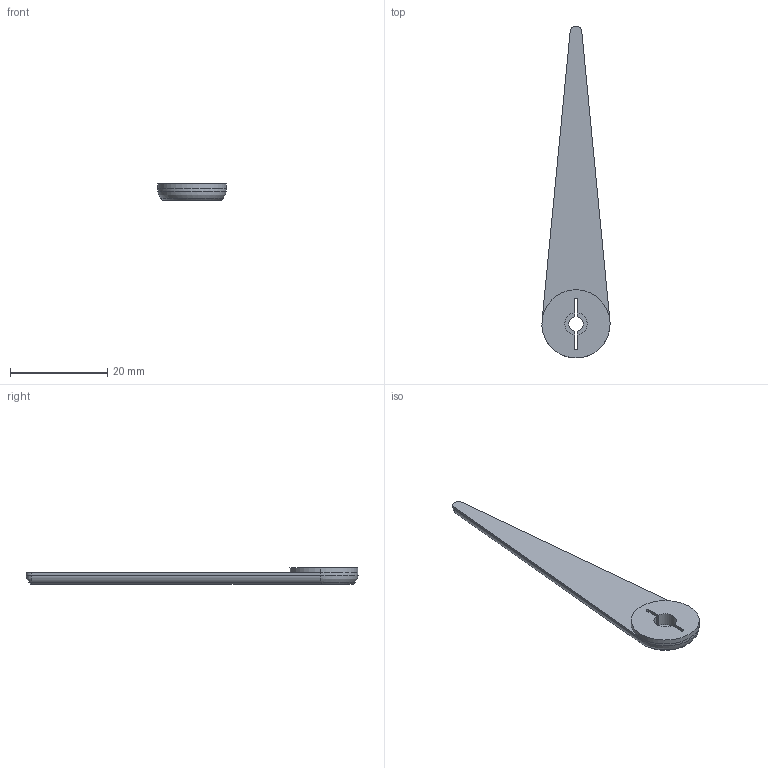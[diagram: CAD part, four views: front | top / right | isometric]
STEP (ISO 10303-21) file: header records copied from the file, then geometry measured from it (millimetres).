
FILE_DESCRIPTION(('FreeCAD Model'),'2;1');
FILE_NAME('Open CASCADE Shape Model','2024-03-23T00:14:42',(''),(''), 'Open CASCADE STEP processor 7.6','FreeCAD','Unknown');
FILE_SCHEMA(('AUTOMOTIVE_DESIGN { 1 0 10303 214 1 1 1 1 }'));
Length unit declared in the file: millimetre
Products named in the file (1): Pointer
Bounding box: 13.98 x 68.2 x 3.3 mm (x, y, z)
Volume: 1327.1 mm3; surface area: 1489.2 mm2
Topology: 1 solids, 1 shells, 36 faces, 82 edges, 48 vertices
Faces by surface type: plane 19, cylinder 13, bspline 2, cone 2
Entity records: 1076 total; most frequent: CARTESIAN_POINT 248, DIRECTION 173, ORIENTED_EDGE 164, EDGE_CURVE 82, AXIS2_PLACEMENT_3D 61, LINE 51, VECTOR 51, VERTEX_POINT 48
